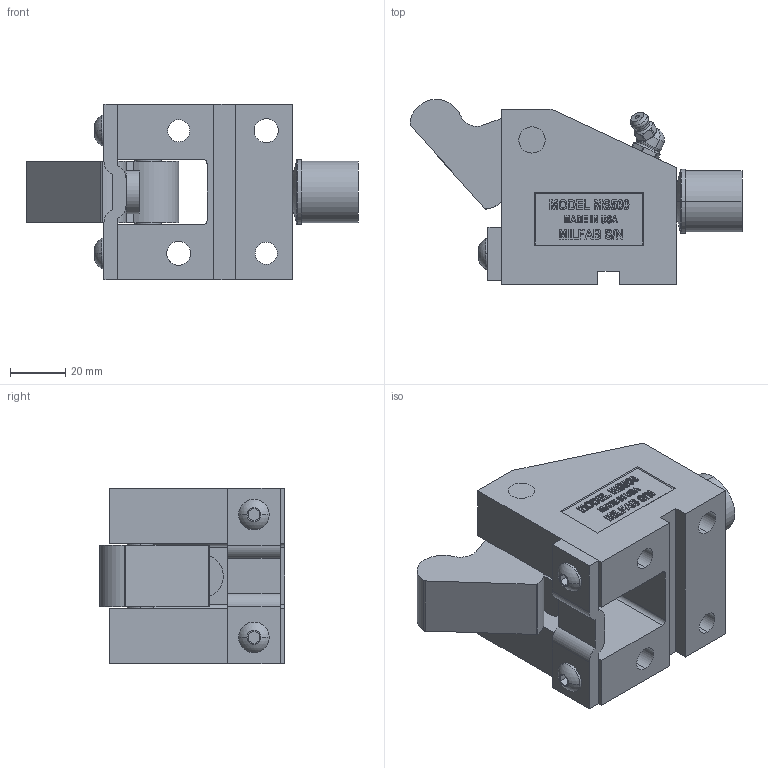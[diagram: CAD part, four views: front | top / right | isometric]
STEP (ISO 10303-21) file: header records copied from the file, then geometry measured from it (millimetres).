
FILE_DESCRIPTION (( 'STEP AP214' ), '1' );
FILE_NAME ('MS50045-O.STEP', '2014-01-07T18:56:18', ( 'user' ), ( '' ), 'SwSTEP 2.0', 'SolidWorks 2009', '' );
FILE_SCHEMA (( 'AUTOMOTIVE_DESIGN' ));
Length unit declared in the file: inch
Products named in the file (1): MS50045-O
Bounding box: 120.27 x 67.08 x 63.5 mm (x, y, z)
Surface area: 47023.6 mm2 (no closed solid volume)
Topology: 0 solids, 11 shells, 496 faces, 1443 edges, 964 vertices
Faces by surface type: plane 295, bspline 98, cylinder 69, torus 16, cone 14, sphere 4
Entity records: 28727 total; most frequent: CARTESIAN_POINT 9939, ORIENTED_EDGE 2672, DIRECTION 2139, EDGE_CURVE 1443, VERTEX_POINT 964, VECTOR 949, LINE 949, AXIS2_PLACEMENT_3D 595
